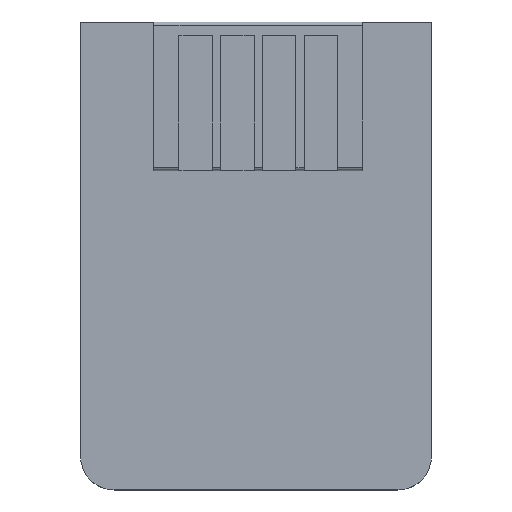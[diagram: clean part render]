
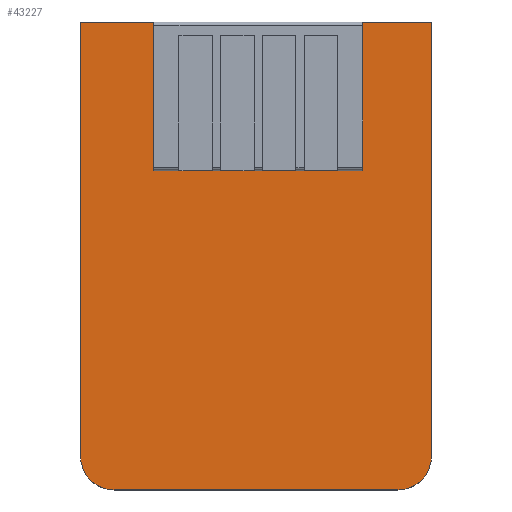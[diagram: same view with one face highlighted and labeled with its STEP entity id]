
A CAD part, top view. The second image highlights one B-rep face of the part: STEP entity #43227.
In plain terms, the highlighted planar face has unit normal (0, 0, 1).
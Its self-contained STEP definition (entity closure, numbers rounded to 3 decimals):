
#5031=PLANE('',#44669);
#5991=FACE_OUTER_BOUND('',#7391,.T.);
#7391=EDGE_LOOP('',(#35278,#35279,#35280,#35281,#35282,#35283));
#8843=LINE('',#59426,#14186);
#8848=LINE('',#59441,#14191);
#8850=LINE('',#59445,#14193);
#8852=LINE('',#59448,#14195);
#14186=VECTOR('',#47809,10.);
#14191=VECTOR('',#47824,10.);
#14193=VECTOR('',#47828,10.);
#14195=VECTOR('',#47832,10.);
#19525=CIRCLE('',#44659,2.);
#19528=CIRCLE('',#44665,2.);
#21255=VERTEX_POINT('',#59413);
#21256=VERTEX_POINT('',#59414);
#21260=VERTEX_POINT('',#59424);
#21264=VERTEX_POINT('',#59436);
#21265=VERTEX_POINT('',#59440);
#21266=VERTEX_POINT('',#59444);
#28175=EDGE_CURVE('',#21255,#21256,#19525,.T.);
#28181=EDGE_CURVE('',#21260,#21255,#8843,.T.);
#28186=EDGE_CURVE('',#21264,#21260,#19528,.T.);
#28188=EDGE_CURVE('',#21256,#21265,#8848,.T.);
#28190=EDGE_CURVE('',#21265,#21266,#8850,.T.);
#28192=EDGE_CURVE('',#21266,#21264,#8852,.T.);
#35278=ORIENTED_EDGE('',*,*,#28175,.F.);
#35279=ORIENTED_EDGE('',*,*,#28181,.F.);
#35280=ORIENTED_EDGE('',*,*,#28186,.F.);
#35281=ORIENTED_EDGE('',*,*,#28192,.F.);
#35282=ORIENTED_EDGE('',*,*,#28190,.F.);
#35283=ORIENTED_EDGE('',*,*,#28188,.F.);
#43227=ADVANCED_FACE('',(#5991),#5031,.T.);
#44659=AXIS2_PLACEMENT_3D('',#59415,#47799,#47800);
#44665=AXIS2_PLACEMENT_3D('',#59437,#47819,#47820);
#44669=AXIS2_PLACEMENT_3D('',#59449,#47833,#47834);
#47799=DIRECTION('center_axis',(0.,0.,-1.));
#47800=DIRECTION('ref_axis',(-0.707,-0.707,0.));
#47809=DIRECTION('',(-1.,0.,0.));
#47819=DIRECTION('center_axis',(0.,0.,-1.));
#47820=DIRECTION('ref_axis',(0.707,-0.707,0.));
#47824=DIRECTION('',(0.,1.,0.));
#47828=DIRECTION('',(1.,0.,0.));
#47832=DIRECTION('',(0.,-1.,0.));
#47833=DIRECTION('center_axis',(0.,0.,1.));
#47834=DIRECTION('ref_axis',(1.,0.,0.));
#59413=CARTESIAN_POINT('',(2.,0.,1.));
#59414=CARTESIAN_POINT('',(0.,2.,1.));
#59415=CARTESIAN_POINT('Origin',(2.,2.,1.));
#59424=CARTESIAN_POINT('',(19.,0.,1.));
#59426=CARTESIAN_POINT('',(0.,0.,1.));
#59436=CARTESIAN_POINT('',(21.,2.,1.));
#59437=CARTESIAN_POINT('Origin',(19.,2.,1.));
#59440=CARTESIAN_POINT('',(0.,28.,1.));
#59441=CARTESIAN_POINT('',(0.,28.,1.));
#59444=CARTESIAN_POINT('',(21.,28.,1.));
#59445=CARTESIAN_POINT('',(21.,28.,1.));
#59448=CARTESIAN_POINT('',(21.,0.,1.));
#59449=CARTESIAN_POINT('Origin',(10.5,14.,1.));
